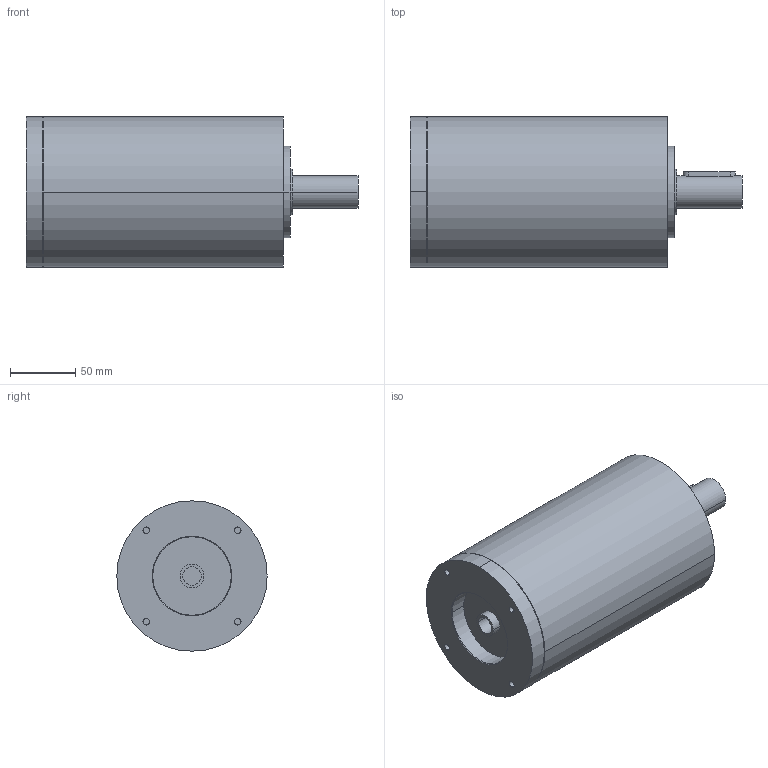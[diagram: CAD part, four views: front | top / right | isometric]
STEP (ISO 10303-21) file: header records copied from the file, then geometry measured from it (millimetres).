
FILE_DESCRIPTION(('CoCreate Modeling STEP Export'),'2;1');
FILE_NAME('GPR125_ig-48-64-80-100-140-196-245-343_25_B14_14_P20.stp','2014-08-26T14:20:55',(''),(''),'CoCreate Modeling STEP processor for AP214 (Solid Model)','CoCreate Modeling 16.00C 25-Feb-2009 (C) Parametric Technology GmbH','');
FILE_SCHEMA(('AUTOMOTIVE_DESIGN { 1 0 10303 214 1 1 1 1 }'));
Length unit declared in the file: millimetre
Products named in the file (2): GPR125_ig-48-64-80-100-140-196-245-343_25_B14_14_P20
Assembly tree (1 placements, depth 2):
  GPR125_ig-48-64-80-100-140-196-245-343_25_B14_14_P20
    GPR125_ig-48-64-80-100-140-196-245-343_25_B14_14_P20
Bounding box: 254 x 115 x 115 mm (x, y, z)
Volume: 2047235.2 mm3; surface area: 105186.7 mm2
Topology: 1 solids, 1 shells, 62 faces, 159 edges, 113 vertices
Faces by surface type: cylinder 36, plane 20, cone 6
Entity records: 1615 total; most frequent: ORIENTED_EDGE 314, CARTESIAN_POINT 308, DIRECTION 206, EDGE_CURVE 157, VERTEX_POINT 113, AXIS2_PLACEMENT_3D 79, EDGE_LOOP 78, FACE_OUTER_BOUND 62
